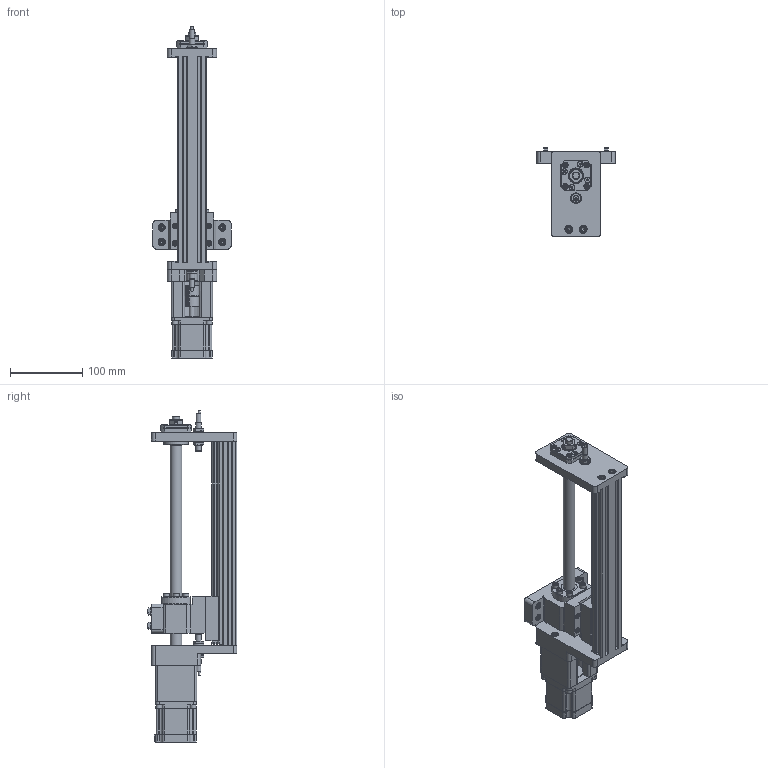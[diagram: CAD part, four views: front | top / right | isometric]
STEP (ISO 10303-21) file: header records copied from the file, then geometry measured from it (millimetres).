
FILE_DESCRIPTION(('STEP AP203'), '1');
FILE_NAME('PLLM-71-200', '', ('UNSPECIFIED'), ('UNSPECIFIED'), 'C3D Converter', 'C3D Toolkit', '');
FILE_SCHEMA(('CONFIG_CONTROL_DESIGN'));
Length unit declared in the file: millimetre
Products named in the file (1): PLLM-71-01.00.000-200 СБ
Bounding box: 108 x 124 x 459 mm (x, y, z)
Volume: 994226.9 mm3; surface area: 257901.3 mm2
Topology: 19 solids, 66 shells, 2605 faces, 6477 edges, 4125 vertices
Faces by surface type: plane 1439, cylinder 670, cone 305, torus 80, extrusion 74, sphere 36, bspline 1
Full cylindrical faces by diameter (mm): 2.459 x4, 2.5 x4, 2.6 x2, 3 x21, 3.242 x16, 3.5 x4, 4 x26, 4.134 x13, 4.5 x12, 4.917 x5, 5 x22, 5.1 x4, 5.5 x14, 5.8 x4, 6 x4, 6.5 x6, 6.7 x2, 7 x17, 7.5 x5, 7.53 x4, 8 x18, 8.5 x17, 10 x22, 11 x8, 14 x1, 14.1 x2, 15 x6, 15.4 x4, 16 x2, 17 x2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
Entity records: 111421 total; most frequent: CARTESIAN_POINT 31563, DIRECTION 12169, ORIENTED_EDGE 11344, EDGE_CURVE 5672, AXIS2_PLACEMENT_3D 4569, VERTEX_POINT 3990, EDGE_LOOP 3490, VECTOR 3031
